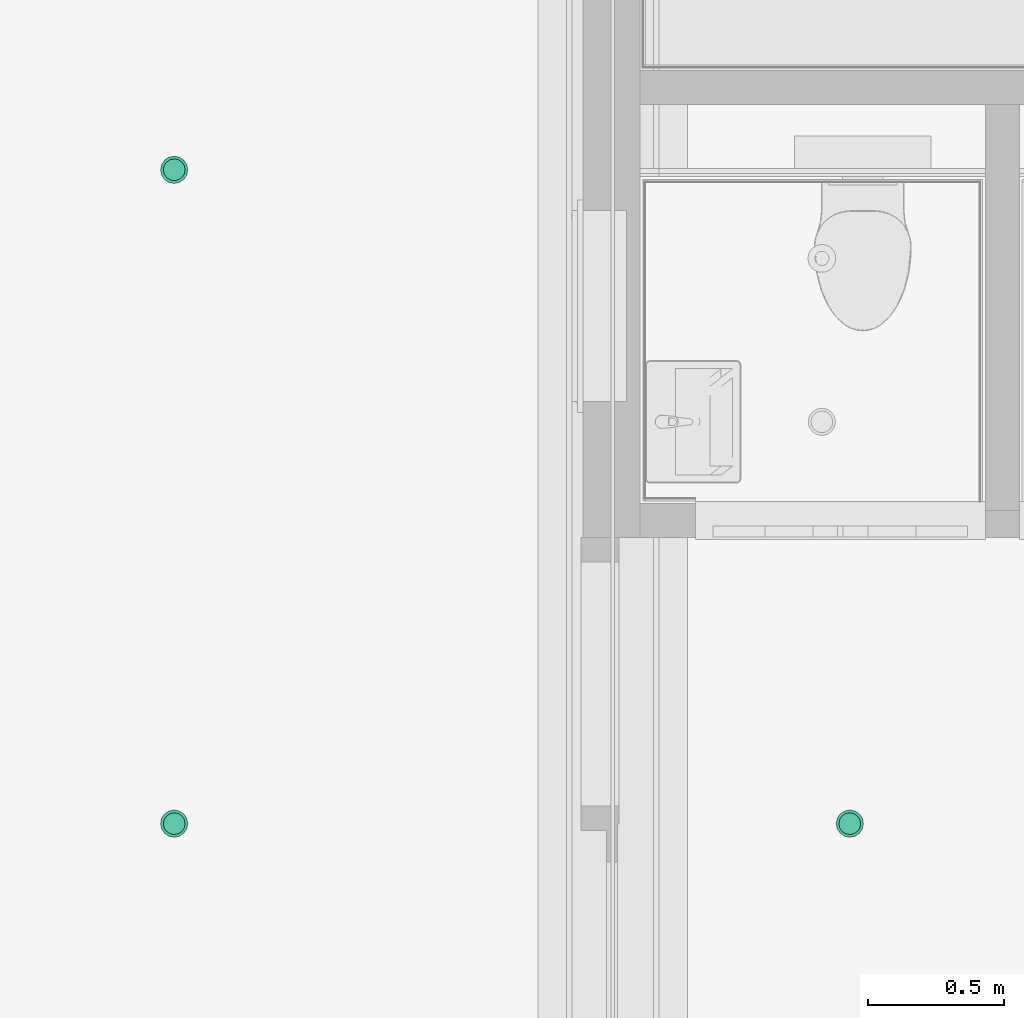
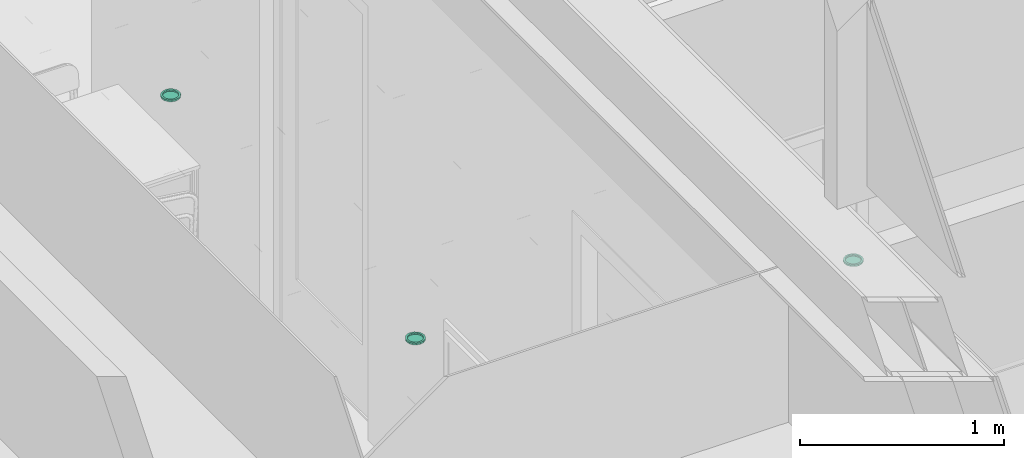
# One storey, part 228 of 347: 3 flow terminals.
"""IFC2X3 building model written with IfcOpenShell, lengths in millimetres."""

from ifc_helpers import new_model, entity, si_unit, converted_unit, derived_unit, money_unit, direction, frame, origin_with_axes, place, context, subcontext, project, spatial, open_shell, faceted_brep, surface_model, source, transform, mapped, type_object, type_shapes, element, save


model = new_model("IFC2X3")

# Units and contexts
model_context = context("Model", 3, precision=0.01, world=origin_with_axes(), true_north=direction((0.0, 1.0)))
plan_context = context("Plan", 3, precision=0.01, world=origin_with_axes(), true_north=direction((0.0, 1.0)))
body_context = subcontext(model_context, "Body", "Model", "MODEL_VIEW")
ifc_project = project(units=[si_unit("LENGTHUNIT", "METRE", prefix="MILLI"), si_unit("AREAUNIT", "SQUARE_METRE"), si_unit("VOLUMEUNIT", "CUBIC_METRE"), converted_unit("PLANEANGLEUNIT", "DEGREE", entity("IfcPlaneAngleMeasure", 0.0174532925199), si_unit("PLANEANGLEUNIT", "RADIAN"), dimensions=[0, 0, 0, 0, 0, 0, 0]), money_unit("EUR"), converted_unit("TIMEUNIT", "Year", entity("IfcTimeMeasure", 31556926.0), si_unit("TIMEUNIT", "SECOND"), dimensions=[0, 0, 1, 0, 0, 0, 0]), si_unit("MASSUNIT", "GRAM", prefix="KILO"), si_unit("THERMODYNAMICTEMPERATUREUNIT", "DEGREE_CELSIUS"), si_unit("LUMINOUSINTENSITYUNIT", "LUMEN"), si_unit("ENERGYUNIT", "JOULE", prefix="MEGA"), derived_unit("THERMALCONDUCTANCEUNIT", [(si_unit("POWERUNIT", "WATT"), 1), (si_unit("LENGTHUNIT", "METRE"), -1), (si_unit("THERMODYNAMICTEMPERATUREUNIT", "KELVIN"), -1)]), derived_unit("SPECIFICHEATCAPACITYUNIT", [(si_unit("ENERGYUNIT", "JOULE"), 1), (si_unit("MASSUNIT", "GRAM", prefix="KILO"), -1), (si_unit("THERMODYNAMICTEMPERATUREUNIT", "KELVIN"), -1)]), derived_unit("MASSDENSITYUNIT", [(si_unit("MASSUNIT", "GRAM", prefix="KILO"), 1), (si_unit("VOLUMEUNIT", "CUBIC_METRE"), -1)])], contexts=[model_context, plan_context])

# Site, building, storey
site_placement = place(None, origin_with_axes())
site = spatial("IfcSite", under=ifc_project, at=site_placement, Name="Site", CompositionType="ELEMENT")
building_placement = place(site_placement, origin_with_axes())
building = spatial("IfcBuilding", under=site, at=building_placement, Name="Naam gebouw", CompositionType="ELEMENT")
storey_placement = place(building_placement, origin_with_axes())
storey = spatial("IfcBuildingStorey", under=building, at=storey_placement, Name="begane grond", CompositionType="ELEMENT", Elevation=0.0)

# Flow terminals
lamp_type = type_object("IfcLampType", Name="Spot plafond 01 25", PredefinedType="NOTDEFINED")
shared_shape = source(origin_with_axes(), body_context, "Body", "SurfaceModel", [
    faceted_brep([(50.0, 0.0, -10.0), (46.1939766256, 19.1341716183, -10.0), (46.1939766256, 19.1341716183, 0.0), (50.0, 0.0, 0.0), (46.1939766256, -19.1341716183, -10.0), (35.3553390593, -35.3553390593, -10.0), (19.1341716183, -46.1939766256, -10.0), (0.0, -50.0, -10.0), (-19.1341716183, -46.1939766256, -10.0), (-35.3553390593, -35.3553390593, -10.0), (-46.1939766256, -19.1341716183, -10.0), (-50.0, 0.0, -10.0), (-46.1939766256, 19.1341716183, -10.0), (-35.3553390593, 35.3553390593, -10.0), (-19.1341716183, 46.1939766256, -10.0), (0.0, 50.0, -10.0), (19.1341716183, 46.1939766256, -10.0), (35.3553390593, 35.3553390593, -10.0), (40.0, 0.0, -10.0), (36.9551813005, 15.3073372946, -10.0), (28.2842712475, 28.2842712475, -10.0), (15.3073372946, 36.9551813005, -10.0), (0.0, 40.0, -10.0), (-15.3073372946, 36.9551813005, -10.0), (-28.2842712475, 28.2842712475, -10.0), (-36.9551813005, 15.3073372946, -10.0), (-40.0, 0.0, -10.0), (-36.9551813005, -15.3073372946, -10.0), (-28.2842712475, -28.2842712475, -10.0), (-15.3073372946, -36.9551813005, -10.0), (0.0, -40.0, -10.0), (15.3073372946, -36.9551813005, -10.0), (28.2842712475, -28.2842712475, -10.0), (36.9551813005, -15.3073372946, -10.0), (35.3553390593, 35.3553390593, 0.0), (19.1341716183, 46.1939766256, 0.0), (0.0, 50.0, 0.0), (-19.1341716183, 46.1939766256, 0.0), (-35.3553390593, 35.3553390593, 0.0), (-46.1939766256, 19.1341716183, 0.0), (-50.0, 0.0, 0.0), (-46.1939766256, -19.1341716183, 0.0), (-35.3553390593, -35.3553390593, 0.0), (-19.1341716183, -46.1939766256, 0.0), (0.0, -50.0, 0.0), (19.1341716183, -46.1939766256, 0.0), (35.3553390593, -35.3553390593, 0.0), (46.1939766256, -19.1341716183, 0.0), (40.0, 0.0, 0.0), (36.9551813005, -15.3073372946, 0.0), (28.2842712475, -28.2842712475, 0.0), (15.3073372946, -36.9551813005, 0.0), (0.0, -40.0, 0.0), (-15.3073372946, -36.9551813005, 0.0), (-28.2842712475, -28.2842712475, 0.0), (-36.9551813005, -15.3073372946, 0.0), (-40.0, 0.0, 0.0), (-36.9551813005, 15.3073372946, 0.0), (-28.2842712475, 28.2842712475, 0.0), (-15.3073372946, 36.9551813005, 0.0), (0.0, 40.0, 0.0), (15.3073372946, 36.9551813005, 0.0), (28.2842712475, 28.2842712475, 0.0), (36.9551813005, 15.3073372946, 0.0)], [[[0, 1, 2, 3]], [[0, 4, 5, 6, 7, 8, 9, 10, 11, 12, 13, 14, 15, 16, 17, 1], [18, 19, 20, 21, 22, 23, 24, 25, 26, 27, 28, 29, 30, 31, 32, 33]], [[1, 17, 34, 2]], [[3, 2, 34, 35, 36, 37, 38, 39, 40, 41, 42, 43, 44, 45, 46, 47], [48, 49, 50, 51, 52, 53, 54, 55, 56, 57, 58, 59, 60, 61, 62, 63]], [[4, 0, 3, 47]], [[5, 4, 47, 46]], [[6, 5, 46, 45]], [[7, 6, 45, 44]], [[8, 7, 44, 43]], [[9, 8, 43, 42]], [[10, 9, 42, 41]], [[11, 10, 41, 40]], [[12, 11, 40, 39]], [[13, 12, 39, 38]], [[14, 13, 38, 37]], [[15, 14, 37, 36]], [[16, 15, 36, 35]], [[17, 16, 35, 34]], [[19, 18, 48, 63]], [[20, 19, 63, 62]], [[21, 20, 62, 61]], [[22, 21, 61, 60]], [[23, 22, 60, 59]], [[24, 23, 59, 58]], [[25, 24, 58, 57]], [[26, 25, 57, 56]], [[27, 26, 56, 55]], [[28, 27, 55, 54]], [[29, 28, 54, 53]], [[30, 29, 53, 52]], [[31, 30, 52, 51]], [[32, 31, 51, 50]], [[33, 32, 50, 49]], [[18, 33, 49, 48]]]),
    surface_model("IfcShellBasedSurfaceModel", [(40.0, 0.0, -8.9), (36.9551813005, -15.3073372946, -8.9), (28.2842712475, -28.2842712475, -8.9), (15.3073372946, -36.9551813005, -8.9), (0.0, -40.0, -8.9), (-15.3073372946, -36.9551813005, -8.9), (-28.2842712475, -28.2842712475, -8.9), (-36.9551813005, -15.3073372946, -8.9), (-40.0, 0.0, -8.9), (-36.9551813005, 15.3073372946, -8.9), (-28.2842712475, 28.2842712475, -8.9), (-15.3073372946, 36.9551813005, -8.9), (0.0, 40.0, -8.9), (15.3073372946, 36.9551813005, -8.9), (28.2842712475, 28.2842712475, -8.9), (36.9551813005, 15.3073372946, -8.9)], [open_shell([[[0, 1, 2, 3, 4, 5, 6, 7, 8, 9, 10, 11, 12, 13, 14, 15]]])]),
])
type_shapes(lamp_type, [shared_shape])
for number, where, z_axis, x_axis, name in (
    (1, (33995.0, 31424.9999638, 3000.0), (0.0, 0.0, 1.0), (1.0, 0.0, 0.0), "63_Lamp-x"),
    (2, (33995.0, 29024.9999638, 3000.0), (0.0, 0.0, 1.0), (1.0, 0.0, 0.0), "63_Lamp-x"),
    (3, (36475.0, 29024.9999638, 2600.0), (0.0, 0.0, 1.0), (1.0, 0.0, 0.0), "63_Lamp-x"),
):
    element("IfcFlowTerminal", number, at=place(storey_placement, frame(where, z_axis=z_axis, x_axis=x_axis)), inside=storey, type_object=lamp_type, Name=name, ObjectType="Lamp", context=body_context, shape_type="MappedRepresentation", body=[
        mapped(shared_shape, transform((0.0, 0.0, 0.0))),
    ])

save(model, "model.ifc")
